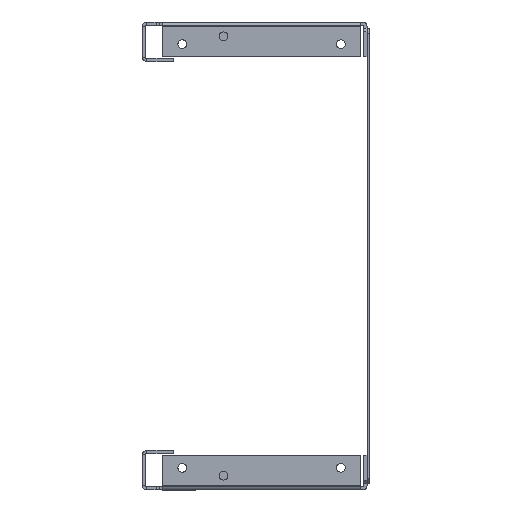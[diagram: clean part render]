
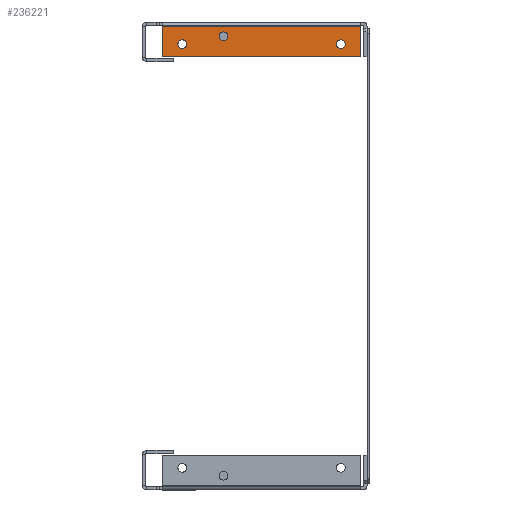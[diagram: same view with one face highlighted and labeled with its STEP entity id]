
A CAD part, left-side view. The second image highlights one B-rep face of the part: STEP entity #236221.
In plain terms, the highlighted planar face has unit normal (-1, 0, 0).
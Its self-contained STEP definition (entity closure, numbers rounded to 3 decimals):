
#139431=CARTESIAN_POINT(' ',(-620.,56.25,-2.6));
#139432=VERTEX_POINT(' ',#139431);
#139446=CARTESIAN_POINT(' ',(-620.,-68.75,-2.6));
#139451=DIRECTION(' ',(0.,1.,0.));
#139456=VECTOR(' ',#139451,1.);
#139461=LINE('',#139446,#139456);
#139466=CARTESIAN_POINT(' ',(-620.,-68.75,-2.6));
#139467=VERTEX_POINT(' ',#139466);
#139471=EDGE_CURVE(' ',#139467,#139432,#139461,.T.);
#235766=CARTESIAN_POINT(' ',(-620.,56.25,-22.));
#235767=VERTEX_POINT(' ',#235766);
#235781=CARTESIAN_POINT(' ',(-620.,56.25,-22.));
#235786=DIRECTION(' ',(0.,0.,1.));
#235791=VECTOR(' ',#235786,1.);
#235796=LINE('',#235781,#235791);
#235801=EDGE_CURVE(' ',#235767,#139432,#235796,.T.);
#235841=DIRECTION(' ',(-1.,0.,0.));
#235846=CARTESIAN_POINT(' ',(-620.,56.25,-22.));
#235851=DIRECTION(' ',(0.,-1.,0.));
#235856=AXIS2_PLACEMENT_3D(' ',#235846,#235841,#235851);
#235861=PLANE('NONE',#235856);
#235866=CARTESIAN_POINT(' ',(-620.,-68.75,-22.));
#235871=DIRECTION(' ',(0.,1.,0.));
#235876=VECTOR(' ',#235871,1.);
#235881=LINE('',#235866,#235876);
#235886=CARTESIAN_POINT(' ',(-620.,-68.75,-22.));
#235887=VERTEX_POINT(' ',#235886);
#235891=EDGE_CURVE(' ',#235887,#235767,#235881,.T.);
#235896=ORIENTED_EDGE(' ',*,*,#235891,.F.);
#235901=CARTESIAN_POINT(' ',(-620.,-68.75,-2.6));
#235906=DIRECTION(' ',(0.,0.,-1.));
#235911=VECTOR(' ',#235906,1.);
#235916=LINE('',#235901,#235911);
#235921=EDGE_CURVE(' ',#139467,#235887,#235916,.T.);
#235926=ORIENTED_EDGE(' ',*,*,#235921,.F.);
#235931=ORIENTED_EDGE(' ',*,*,#139471,.T.);
#235936=ORIENTED_EDGE(' ',*,*,#235801,.F.);
#235941=EDGE_LOOP(' ',(#235896,#235926,#235931,#235936));
#235946=FACE_OUTER_BOUND(' ',#235941,.T.);
#235951=CARTESIAN_POINT(' ',(-620.,-56.25,-14.));
#235956=DIRECTION(' ',(-1.,-0.,0.));
#235961=DIRECTION(' ',(0.,0.,1.));
#235966=AXIS2_PLACEMENT_3D(' ',#235951,#235956,#235961);
#235971=CIRCLE('',#235966,2.75);
#235976=CARTESIAN_POINT(' ',(-620.,-56.25,-11.25));
#235977=VERTEX_POINT(' ',#235976);
#235981=CARTESIAN_POINT(' ',(-620.,-56.25,-16.75));
#235982=VERTEX_POINT(' ',#235981);
#235986=EDGE_CURVE(' ',#235977,#235982,#235971,.T.);
#235991=ORIENTED_EDGE(' ',*,*,#235986,.F.);
#235996=CARTESIAN_POINT(' ',(-620.,-56.25,-14.));
#236001=DIRECTION(' ',(-1.,0.,0.));
#236006=DIRECTION(' ',(0.,0.,-1.));
#236011=AXIS2_PLACEMENT_3D(' ',#235996,#236001,#236006);
#236016=CIRCLE('',#236011,2.75);
#236021=EDGE_CURVE(' ',#235982,#235977,#236016,.T.);
#236026=ORIENTED_EDGE(' ',*,*,#236021,.F.);
#236031=EDGE_LOOP(' ',(#235991,#236026));
#236036=FACE_BOUND(' ',#236031,.T.);
#236041=CARTESIAN_POINT(' ',(-620.,43.75,-14.));
#236046=DIRECTION(' ',(-1.,0.,0.));
#236051=DIRECTION(' ',(0.,0.,1.));
#236056=AXIS2_PLACEMENT_3D(' ',#236041,#236046,#236051);
#236061=CIRCLE('',#236056,2.75);
#236066=CARTESIAN_POINT(' ',(-620.,43.75,-11.25));
#236067=VERTEX_POINT(' ',#236066);
#236071=CARTESIAN_POINT(' ',(-620.,43.75,-16.75));
#236072=VERTEX_POINT(' ',#236071);
#236076=EDGE_CURVE(' ',#236067,#236072,#236061,.T.);
#236081=ORIENTED_EDGE(' ',*,*,#236076,.F.);
#236086=CARTESIAN_POINT(' ',(-620.,43.75,-14.));
#236091=DIRECTION(' ',(-1.,0.,0.));
#236096=DIRECTION(' ',(0.,0.,-1.));
#236101=AXIS2_PLACEMENT_3D(' ',#236086,#236091,#236096);
#236106=CIRCLE('',#236101,2.75);
#236111=EDGE_CURVE(' ',#236072,#236067,#236106,.T.);
#236116=ORIENTED_EDGE(' ',*,*,#236111,.F.);
#236121=EDGE_LOOP(' ',(#236081,#236116));
#236126=FACE_BOUND(' ',#236121,.T.);
#236131=CARTESIAN_POINT(' ',(-620.,17.75,-9.));
#236136=DIRECTION(' ',(-1.,0.,-0.));
#236141=DIRECTION(' ',(0.,-1.,0.));
#236146=AXIS2_PLACEMENT_3D(' ',#236131,#236136,#236141);
#236151=CIRCLE('',#236146,2.75);
#236156=CARTESIAN_POINT(' ',(-620.,15.,-9.));
#236157=VERTEX_POINT(' ',#236156);
#236161=CARTESIAN_POINT(' ',(-620.,20.5,-9.));
#236162=VERTEX_POINT(' ',#236161);
#236166=EDGE_CURVE(' ',#236157,#236162,#236151,.T.);
#236171=ORIENTED_EDGE(' ',*,*,#236166,.F.);
#236176=CARTESIAN_POINT(' ',(-620.,17.75,-9.));
#236181=DIRECTION(' ',(-1.,0.,0.));
#236186=DIRECTION(' ',(0.,1.,0.));
#236191=AXIS2_PLACEMENT_3D(' ',#236176,#236181,#236186);
#236196=CIRCLE('',#236191,2.75);
#236201=EDGE_CURVE(' ',#236162,#236157,#236196,.T.);
#236206=ORIENTED_EDGE(' ',*,*,#236201,.F.);
#236211=EDGE_LOOP(' ',(#236171,#236206));
#236216=FACE_BOUND(' ',#236211,.T.);
#236221=ADVANCED_FACE('NONE',(#235946,#236036,#236126,#236216),#235861,.T.);
